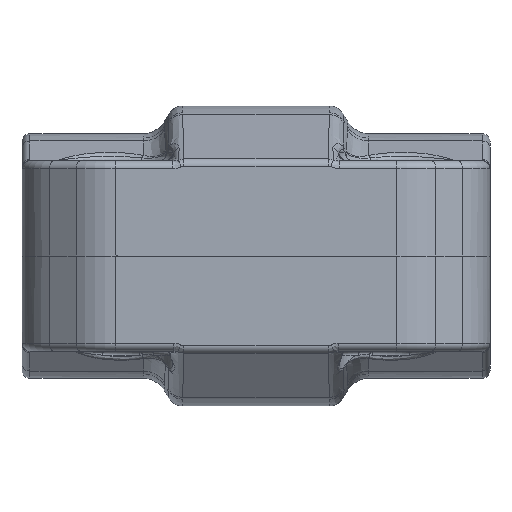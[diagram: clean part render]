
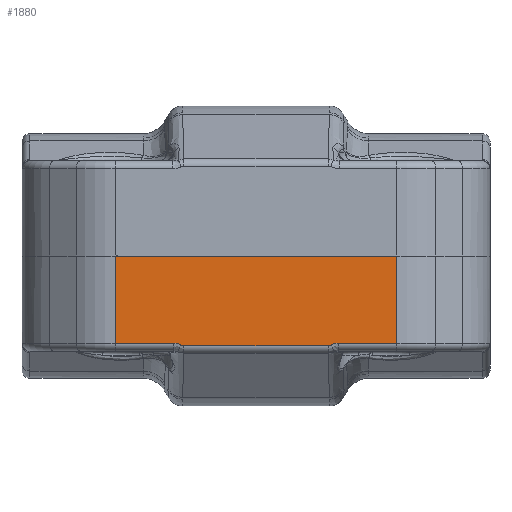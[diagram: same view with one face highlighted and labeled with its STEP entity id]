
A CAD part, front view. The second image highlights one B-rep face of the part: STEP entity #1880.
In plain terms, the highlighted planar face has unit normal (0, -1, 0).
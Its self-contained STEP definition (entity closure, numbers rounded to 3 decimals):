
#672=B_SPLINE_CURVE_WITH_KNOTS('',3,(#12954,#12955,#12956,#12957,#12958,
#12959,#12960,#12961,#12962),.UNSPECIFIED.,.F.,.F.,(4,1,1,1,1,1,4),(0.,0.167,
0.333,0.5,0.667,0.833,1.),.UNSPECIFIED.);
#689=B_SPLINE_CURVE_WITH_KNOTS('',3,(#13595,#13596,#13597,#13598,#13599,
#13600),.UNSPECIFIED.,.F.,.F.,(4,1,1,4),(0.,0.333,0.667,
1.),.UNSPECIFIED.);
#690=B_SPLINE_CURVE_WITH_KNOTS('',3,(#13608,#13609,#13610,#13611,#13612,
#13613,#13614,#13615,#13616),.UNSPECIFIED.,.F.,.F.,(4,1,1,1,1,1,4),(0.,0.167,
0.333,0.5,0.667,0.833,1.),.UNSPECIFIED.);
#691=B_SPLINE_CURVE_WITH_KNOTS('',3,(#13618,#13619,#13620,#13621,#13622,
#13623),.UNSPECIFIED.,.F.,.F.,(4,1,1,4),(0.,0.333,0.667,
1.),.UNSPECIFIED.);
#1276=FACE_OUTER_BOUND('',#3139,.T.);
#1880=ADVANCED_FACE('',(#1276),#2476,.T.);
#2476=PLANE('',#9929);
#3139=EDGE_LOOP('',(#3886,#3887,#3888,#3889,#3890,#3891,#3892,#3893,#3894,
#3895));
#3886=ORIENTED_EDGE('',*,*,#7675,.F.);
#3887=ORIENTED_EDGE('',*,*,#7631,.F.);
#3888=ORIENTED_EDGE('',*,*,#7629,.F.);
#3889=ORIENTED_EDGE('',*,*,#7674,.F.);
#3890=ORIENTED_EDGE('',*,*,#7676,.F.);
#3891=ORIENTED_EDGE('',*,*,#7677,.T.);
#3892=ORIENTED_EDGE('',*,*,#7678,.T.);
#3893=ORIENTED_EDGE('',*,*,#7679,.T.);
#3894=ORIENTED_EDGE('',*,*,#7680,.T.);
#3895=ORIENTED_EDGE('',*,*,#7681,.T.);
#6746=VERTEX_POINT('',#12949);
#6747=VERTEX_POINT('',#12951);
#6748=VERTEX_POINT('',#12963);
#6770=VERTEX_POINT('',#13592);
#6771=VERTEX_POINT('',#13601);
#6772=VERTEX_POINT('',#13603);
#6773=VERTEX_POINT('',#13605);
#6774=VERTEX_POINT('',#13607);
#6775=VERTEX_POINT('',#13617);
#6776=VERTEX_POINT('',#13624);
#7629=EDGE_CURVE('',#6746,#6747,#9100,.T.);
#7631=EDGE_CURVE('',#6747,#6748,#672,.T.);
#7674=EDGE_CURVE('',#6770,#6746,#9105,.T.);
#7675=EDGE_CURVE('',#6748,#6771,#689,.T.);
#7676=EDGE_CURVE('',#6772,#6770,#9106,.T.);
#7677=EDGE_CURVE('',#6772,#6773,#9107,.T.);
#7678=EDGE_CURVE('',#6773,#6774,#9108,.T.);
#7679=EDGE_CURVE('',#6774,#6775,#690,.T.);
#7680=EDGE_CURVE('',#6775,#6776,#691,.T.);
#7681=EDGE_CURVE('',#6776,#6771,#9109,.T.);
#9100=LINE('',#12950,#9486);
#9105=LINE('',#13593,#9491);
#9106=LINE('',#13602,#9492);
#9107=LINE('',#13604,#9493);
#9108=LINE('',#13606,#9494);
#9109=LINE('',#13625,#9495);
#9486=VECTOR('',#10776,1.);
#9491=VECTOR('',#10845,1.);
#9492=VECTOR('',#10848,1.);
#9493=VECTOR('',#10849,1.);
#9494=VECTOR('',#10850,1.);
#9495=VECTOR('',#10851,1.);
#9929=AXIS2_PLACEMENT_3D('',#13626,#10852,#10853);
#10776=DIRECTION('',(-1.,0.,0.));
#10845=DIRECTION('',(0.,0.,-1.));
#10848=DIRECTION('',(1.,0.,0.));
#10849=DIRECTION('',(0.,0.,-1.));
#10850=DIRECTION('',(1.,0.,0.));
#10851=DIRECTION('',(1.,0.,0.));
#10852=DIRECTION('',(0.,-1.,0.));
#10853=DIRECTION('',(-1.,0.,0.));
#12949=CARTESIAN_POINT('',(17.755,-23.,-11.));
#12950=CARTESIAN_POINT('',(17.755,-23.,-11.));
#12951=CARTESIAN_POINT('',(10.393,-23.,-11.));
#12954=CARTESIAN_POINT('',(10.393,-23.,-11.));
#12955=CARTESIAN_POINT('',(10.334,-23.,-11.));
#12956=CARTESIAN_POINT('',(10.222,-23.,-11.005));
#12957=CARTESIAN_POINT('',(10.069,-23.,-11.024));
#12958=CARTESIAN_POINT('',(9.93,-23.,-11.052));
#12959=CARTESIAN_POINT('',(9.791,-23.,-11.088));
#12960=CARTESIAN_POINT('',(9.646,-23.,-11.137));
#12961=CARTESIAN_POINT('',(9.543,-23.,-11.18));
#12962=CARTESIAN_POINT('',(9.489,-23.,-11.204));
#12963=CARTESIAN_POINT('',(9.489,-23.,-11.204));
#13592=CARTESIAN_POINT('',(17.755,-23.,0.));
#13593=CARTESIAN_POINT('',(17.755,-23.,0.));
#13595=CARTESIAN_POINT('',(9.489,-23.,-11.204));
#13596=CARTESIAN_POINT('',(9.452,-23.,-11.221));
#13597=CARTESIAN_POINT('',(9.374,-23.,-11.251));
#13598=CARTESIAN_POINT('',(9.244,-23.,-11.282));
#13599=CARTESIAN_POINT('',(9.146,-23.,-11.291));
#13600=CARTESIAN_POINT('',(9.094,-23.,-11.291));
#13601=CARTESIAN_POINT('',(9.094,-23.,-11.291));
#13602=CARTESIAN_POINT('',(-17.755,-23.,0.));
#13603=CARTESIAN_POINT('',(-17.755,-23.,0.));
#13604=CARTESIAN_POINT('',(-17.755,-23.,0.));
#13605=CARTESIAN_POINT('',(-17.755,-23.,-11.));
#13606=CARTESIAN_POINT('',(-17.755,-23.,-11.));
#13607=CARTESIAN_POINT('',(-10.393,-23.,-11.));
#13608=CARTESIAN_POINT('',(-10.393,-23.,-11.));
#13609=CARTESIAN_POINT('',(-10.334,-23.,-11.));
#13610=CARTESIAN_POINT('',(-10.222,-23.,-11.005));
#13611=CARTESIAN_POINT('',(-10.069,-23.,-11.024));
#13612=CARTESIAN_POINT('',(-9.93,-23.,-11.052));
#13613=CARTESIAN_POINT('',(-9.791,-23.,-11.088));
#13614=CARTESIAN_POINT('',(-9.646,-23.,-11.137));
#13615=CARTESIAN_POINT('',(-9.543,-23.,-11.18));
#13616=CARTESIAN_POINT('',(-9.489,-23.,-11.204));
#13617=CARTESIAN_POINT('',(-9.489,-23.,-11.204));
#13618=CARTESIAN_POINT('',(-9.489,-23.,-11.204));
#13619=CARTESIAN_POINT('',(-9.452,-23.,-11.221));
#13620=CARTESIAN_POINT('',(-9.374,-23.,-11.251));
#13621=CARTESIAN_POINT('',(-9.244,-23.,-11.282));
#13622=CARTESIAN_POINT('',(-9.146,-23.,-11.291));
#13623=CARTESIAN_POINT('',(-9.094,-23.,-11.291));
#13624=CARTESIAN_POINT('',(-9.094,-23.,-11.291));
#13625=CARTESIAN_POINT('',(-9.094,-23.,-11.291));
#13626=CARTESIAN_POINT('',(0.,-23.,0.));
